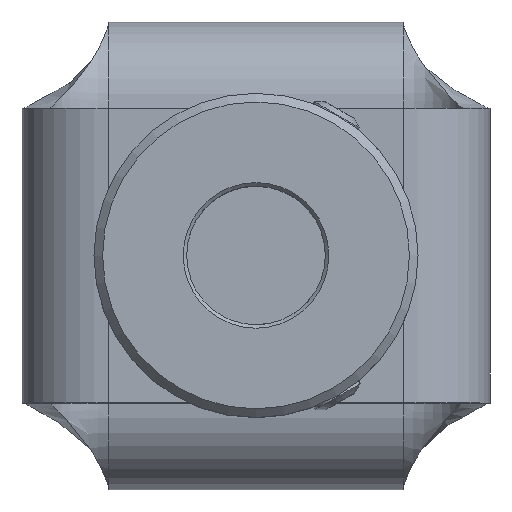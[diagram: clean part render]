
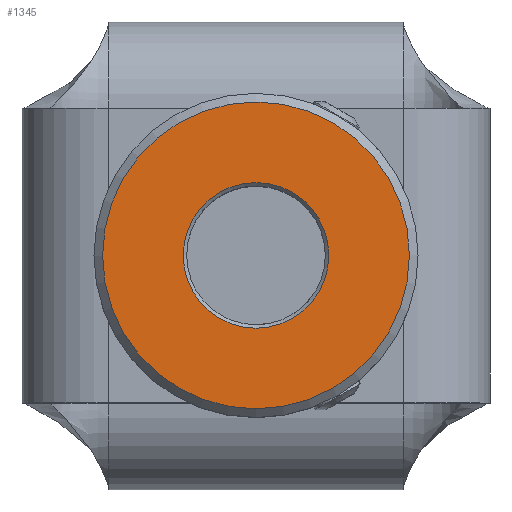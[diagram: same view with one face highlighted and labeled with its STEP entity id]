
A CAD part, top view. The second image highlights one B-rep face of the part: STEP entity #1345.
In plain terms, the highlighted planar face has unit normal (0, 0, 1).
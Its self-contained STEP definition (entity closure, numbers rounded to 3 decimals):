
#43=FACE_BOUND('',#312,.T.);
#217=FACE_OUTER_BOUND('',#311,.T.);
#311=EDGE_LOOP('',(#1155));
#312=EDGE_LOOP('',(#1156));
#408=CIRCLE('',#1468,4.2);
#410=CIRCLE('',#1472,8.85);
#662=VERTEX_POINT('',#2616);
#666=VERTEX_POINT('',#2692);
#828=EDGE_CURVE('',#662,#662,#408,.T.);
#832=EDGE_CURVE('',#666,#666,#410,.T.);
#1155=ORIENTED_EDGE('',*,*,#832,.F.);
#1156=ORIENTED_EDGE('',*,*,#828,.F.);
#1271=PLANE('',#1471);
#1345=ADVANCED_FACE('',(#217,#43),#1271,.F.);
#1468=AXIS2_PLACEMENT_3D('',#2617,#1769,#1770);
#1471=AXIS2_PLACEMENT_3D('',#2691,#1775,#1776);
#1472=AXIS2_PLACEMENT_3D('',#2693,#1777,#1778);
#1769=DIRECTION('center_axis',(0.,0.,1.));
#1770=DIRECTION('ref_axis',(-1.,0.,0.));
#1775=DIRECTION('center_axis',(0.,0.,-1.));
#1776=DIRECTION('ref_axis',(-1.,0.,0.));
#1777=DIRECTION('center_axis',(0.,0.,-1.));
#1778=DIRECTION('ref_axis',(-1.,0.,0.));
#2616=CARTESIAN_POINT('',(4.2,0.,9.));
#2617=CARTESIAN_POINT('Origin',(0.,0.,9.));
#2691=CARTESIAN_POINT('Origin',(0.,0.,9.));
#2692=CARTESIAN_POINT('',(8.85,0.,9.));
#2693=CARTESIAN_POINT('Origin',(0.,0.,9.));
